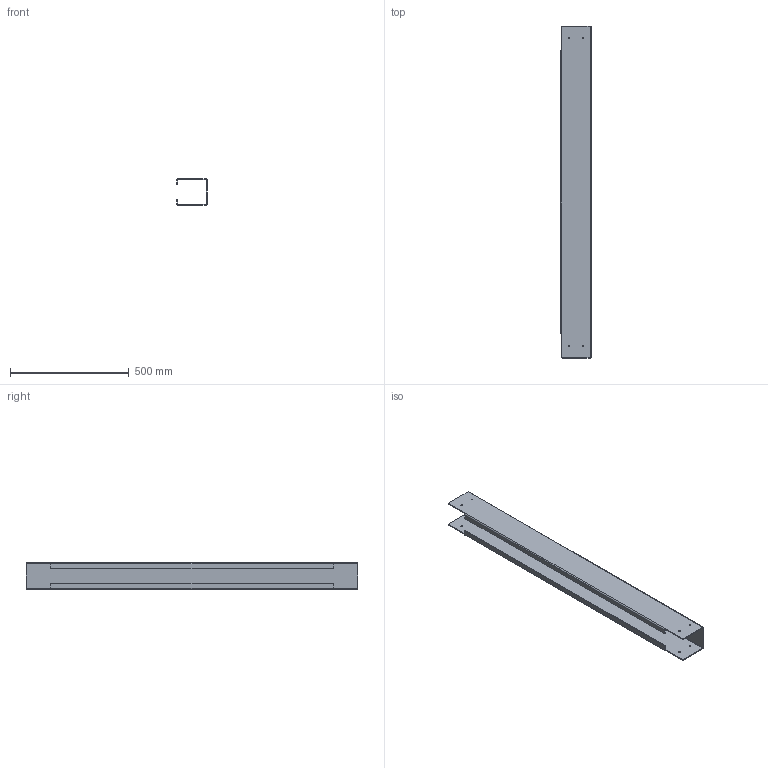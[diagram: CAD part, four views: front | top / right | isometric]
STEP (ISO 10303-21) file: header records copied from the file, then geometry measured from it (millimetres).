
FILE_DESCRIPTION(('HOOPS Exchange Step'),'2;1');
FILE_NAME('/private/var/mobile/Containers/Data/Application/E4481369-A8C6-45C6-A958-B1853E49479D/tmp/export/temp_export','2021-04-12T21:10:39+00:00',('mobile'),('Shapr3D Limited'),'HOOPS Exchange 2020.2','Shapr3D','Authorized');
FILE_SCHEMA( ('AP203_CONFIGURATION_CONTROLLED_3D_DESIGN_OF_MECHANICAL_PARTS_AND_ASSEMBLIES_MIM_LF') );
Length unit declared in the file: millimetre
Products named in the file (2): 0; /private/var/mobile/Containers/Data/Application/E4481369-A8C6-45C6-A958-B1853E49479D/tmp/7E1B8A6C-FF90-4CF1-B9AA-D1F0DAF7C0F4.tmp
Assembly tree (1 placements, depth 2):
  /private/var/mobile/Containers/Data/Application/E4481369-A8C6-45C6-A958-B1853E49479D/tmp/7E1B8A6C-FF90-4CF1-B9AA-D1F0DAF7C0F4.tmp
    0
Bounding box: 129 x 1400 x 112 mm (x, y, z)
Volume: 2182213.6 mm3; surface area: 1105990.6 mm2
Topology: 1 solids, 1 shells, 46 faces, 132 edges, 88 vertices
Faces by surface type: cylinder 24, plane 22
Full cylindrical faces by diameter (mm): 5.2 x8
Entity records: 1611 total; most frequent: DIRECTION 286, CARTESIAN_POINT 269, ORIENTED_EDGE 264, EDGE_CURVE 132, AXIS2_PLACEMENT_3D 105, VERTEX_POINT 88, VECTOR 76, LINE 76
